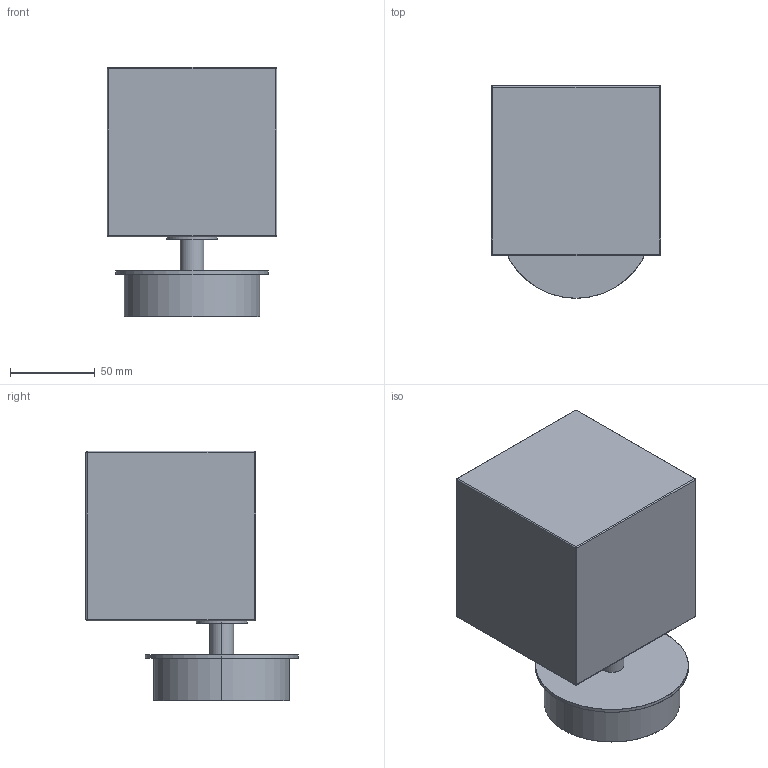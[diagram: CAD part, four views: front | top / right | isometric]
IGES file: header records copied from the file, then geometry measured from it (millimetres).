
Start section: SolidWorks IGES file using analytic representation for surfaces
Global section: file name: C:\Users\Agustin\Desktop\ARNOLD\SEPT 2025\2D-3D DEFINITIVO ONEDRIVE\2D-3D CUBIC_A1344\CUBIC_A1344.IGS; native system: SolidWorks 2018; preprocessor: SolidWorks 2018; author: Agustin; date: 250904.174025; units: millimetre
Bounding box: 100 x 125 x 147 mm (x, y, z)
Surface area: 118045.5 mm2 (no closed solid volume)
Topology: 0 solids, 0 shells, 65 faces, 964 edges, 956 vertices
Faces by surface type: revolution 42, bspline 23
